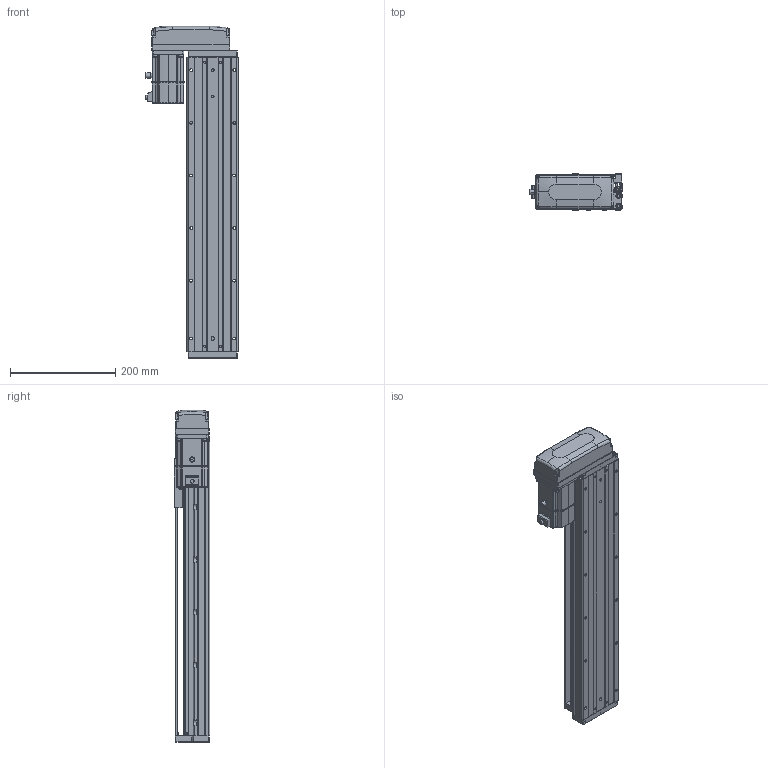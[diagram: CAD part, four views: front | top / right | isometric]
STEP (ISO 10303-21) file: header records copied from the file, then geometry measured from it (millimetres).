
FILE_DESCRIPTION (( 'STEP AP203' ), '1' );
FILE_NAME ('KTHA100-400-BR-M20-C4L.step', '2022-04-26T01:59:41', ( '微软用户' ), ( '微软中国' ), 'SwSTEP 2.0', 'SolidWorks 2020', '' );
FILE_SCHEMA (( 'CONFIG_CONTROL_DESIGN' ));
Length unit declared in the file: millimetre
Products named in the file (17): GB¨uT 70.2-M3¡Á5_M3¡Á6; GBT70.1 M5℅16; EE_SX911P_R; CTHA60-016; CTHA60-017; GBT 70.3-M3℅6; KTHA100-001_560; _X2_4E0983F1_X0_200W_1; KTHA100-002; CTHA60-021; CTHA86-015-1_CTHA86-015-2; KTHA100-004; GBT77-2000 M3×3; CTHA86-033; KTHA100-005; GBT 70.1-M3℅6; KTHA100-400-BR-M20-C4L
Assembly tree (57 placements, depth 2):
  KTHA100-400-BR-M20-C4L
    KTHA100-001_560
    KTHA100-002
    KTHA100-004
    KTHA100-005
    GB¨uT 70.2-M3¡Á5_M3¡Á6  x6
    EE_SX911P_R  x3
    CTHA60-017  x3
    CTHA60-021  x2
    GBT77-2000 M3×3  x6
    GBT 70.1-M3℅6  x10
    GBT70.1 M5℅16  x14
    CTHA60-016  x2
    GBT 70.3-M3℅6  x4
    _X2_4E0983F1_X0_200W_1
    CTHA86-015-1_CTHA86-015-2
    CTHA86-033
Bounding box: 178.52 x 68 x 631 mm (x, y, z)
Volume: 2981720.1 mm3; surface area: 491497.2 mm2
Topology: 60 solids, 60 shells, 2397 faces, 5721 edges, 3544 vertices
Faces by surface type: plane 1220, cylinder 665, cone 305, torus 116, bspline 75, sphere 16
Entity records: 40656 total; most frequent: CARTESIAN_POINT 8224, DIRECTION 6272, ORIENTED_EDGE 6054, EDGE_CURVE 3027, AXIS2_PLACEMENT_3D 2200, VERTEX_POINT 1904, VECTOR 1872, LINE 1872
